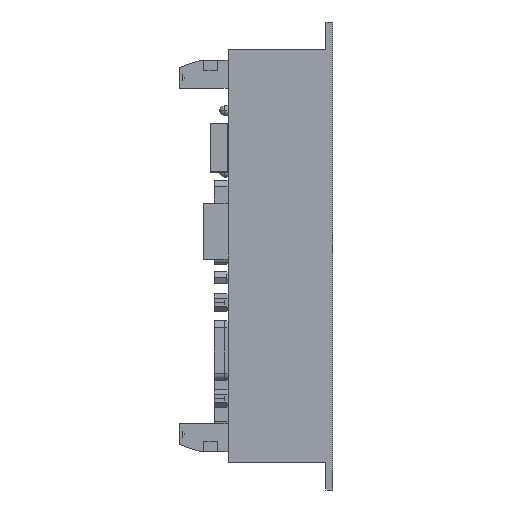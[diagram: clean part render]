
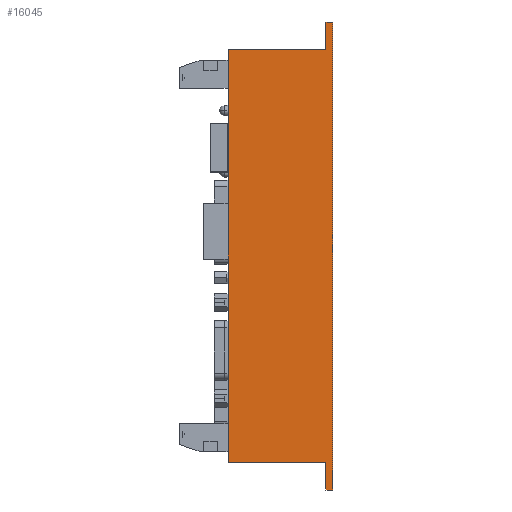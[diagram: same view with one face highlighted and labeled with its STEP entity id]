
A CAD part, left-side view. The second image highlights one B-rep face of the part: STEP entity #16045.
In plain terms, the highlighted planar face has unit normal (-1, 0, 0).
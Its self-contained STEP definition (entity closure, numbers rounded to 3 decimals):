
#2543 = DIRECTION ( 'NONE',  ( 0., -1., 0. ) ) ;
#3916 = LINE ( 'NONE', #60047, #44375 ) ;
#4196 = EDGE_CURVE ( 'NONE', #54018, #56251, #3916, .T. ) ;
#6555 = LINE ( 'NONE', #9157, #20064 ) ;
#8133 = CARTESIAN_POINT ( 'NONE',  ( 0., 30., 67.703 ) ) ;
#8533 = DIRECTION ( 'NONE',  ( 0., 0., -1. ) ) ;
#9157 = CARTESIAN_POINT ( 'NONE',  ( 0., 2., 67.703 ) ) ;
#10380 = VECTOR ( 'NONE', #42547, 1000. ) ;
#11235 = CARTESIAN_POINT ( 'NONE',  ( 0., 2., -58.297 ) ) ;
#11546 = ORIENTED_EDGE ( 'NONE', *, *, #67235, .F. ) ;
#12239 = EDGE_CURVE ( 'NONE', #22685, #40519, #74609, .T. ) ;
#12701 = EDGE_LOOP ( 'NONE', ( #67057, #37570, #50156, #49112, #66664, #11546, #26501, #35660 ) ) ;
#12953 = VECTOR ( 'NONE', #45590, 1000. ) ;
#13385 = VECTOR ( 'NONE', #19671, 1000. ) ;
#14923 = DIRECTION ( 'NONE',  ( 0., 0., 1. ) ) ;
#16045 = ADVANCED_FACE ( 'NONE', ( #50665 ), #25570, .F. ) ;
#17330 = VECTOR ( 'NONE', #33636, 1000. ) ;
#17669 = CARTESIAN_POINT ( 'NONE',  ( 0., 2., -50.297 ) ) ;
#17686 = VERTEX_POINT ( 'NONE', #66553 ) ;
#19671 = DIRECTION ( 'NONE',  ( 0., 0., 1. ) ) ;
#19770 = VERTEX_POINT ( 'NONE', #11235 ) ;
#20064 = VECTOR ( 'NONE', #14923, 1000. ) ;
#21308 = VERTEX_POINT ( 'NONE', #72109 ) ;
#22685 = VERTEX_POINT ( 'NONE', #62416 ) ;
#25570 = PLANE ( 'NONE',  #67678 ) ;
#26217 = CARTESIAN_POINT ( 'NONE',  ( 0., 0., -58.297 ) ) ;
#26501 = ORIENTED_EDGE ( 'NONE', *, *, #74613, .F. ) ;
#30214 = CARTESIAN_POINT ( 'NONE',  ( 0., 0., -58.297 ) ) ;
#32650 = LINE ( 'NONE', #56507, #17330 ) ;
#32927 = LINE ( 'NONE', #8133, #10380 ) ;
#33636 = DIRECTION ( 'NONE',  ( 0., 0., 1. ) ) ;
#33861 = VECTOR ( 'NONE', #2543, 1000. ) ;
#35660 = ORIENTED_EDGE ( 'NONE', *, *, #4196, .F. ) ;
#37110 = DIRECTION ( 'NONE',  ( 0., 0., -1. ) ) ;
#37570 = ORIENTED_EDGE ( 'NONE', *, *, #56961, .F. ) ;
#40519 = VERTEX_POINT ( 'NONE', #61051 ) ;
#40624 = CARTESIAN_POINT ( 'NONE',  ( 0., 0., 75.703 ) ) ;
#42547 = DIRECTION ( 'NONE',  ( 0., -1., 0. ) ) ;
#43555 = LINE ( 'NONE', #17669, #12953 ) ;
#44375 = VECTOR ( 'NONE', #8533, 1000. ) ;
#45590 = DIRECTION ( 'NONE',  ( 0., 1., 0. ) ) ;
#49112 = ORIENTED_EDGE ( 'NONE', *, *, #12239, .F. ) ;
#49152 = LINE ( 'NONE', #65672, #33861 ) ;
#49371 = CARTESIAN_POINT ( 'NONE',  ( 0., 2., -50.297 ) ) ;
#49385 = EDGE_CURVE ( 'NONE', #65285, #22685, #43555, .T. ) ;
#50156 = ORIENTED_EDGE ( 'NONE', *, *, #65205, .F. ) ;
#50665 = FACE_OUTER_BOUND ( 'NONE', #12701, .T. ) ;
#52700 = VECTOR ( 'NONE', #66432, 1000. ) ;
#54018 = VERTEX_POINT ( 'NONE', #40624 ) ;
#56251 = VERTEX_POINT ( 'NONE', #30214 ) ;
#56507 = CARTESIAN_POINT ( 'NONE',  ( 0., 2., -58.297 ) ) ;
#56961 = EDGE_CURVE ( 'NONE', #21308, #17686, #6555, .T. ) ;
#60047 = CARTESIAN_POINT ( 'NONE',  ( 0., 0., 75.703 ) ) ;
#61051 = CARTESIAN_POINT ( 'NONE',  ( 0., 30., 67.703 ) ) ;
#62416 = CARTESIAN_POINT ( 'NONE',  ( 0., 30., -50.297 ) ) ;
#64828 = EDGE_CURVE ( 'NONE', #17686, #54018, #49152, .T. ) ;
#65205 = EDGE_CURVE ( 'NONE', #40519, #21308, #32927, .T. ) ;
#65285 = VERTEX_POINT ( 'NONE', #49371 ) ;
#65670 = CARTESIAN_POINT ( 'NONE',  ( 0., 30., -50.297 ) ) ;
#65672 = CARTESIAN_POINT ( 'NONE',  ( 0., 2., 75.703 ) ) ;
#65769 = CARTESIAN_POINT ( 'NONE',  ( 0., 0., 0. ) ) ;
#66180 = LINE ( 'NONE', #26217, #52700 ) ;
#66432 = DIRECTION ( 'NONE',  ( 0., 1., 0. ) ) ;
#66553 = CARTESIAN_POINT ( 'NONE',  ( 0., 2., 75.703 ) ) ;
#66664 = ORIENTED_EDGE ( 'NONE', *, *, #49385, .F. ) ;
#67057 = ORIENTED_EDGE ( 'NONE', *, *, #64828, .F. ) ;
#67235 = EDGE_CURVE ( 'NONE', #19770, #65285, #32650, .T. ) ;
#67678 = AXIS2_PLACEMENT_3D ( 'NONE', #65769, #71610, #37110 ) ;
#71610 = DIRECTION ( 'NONE',  ( 1., 0., 0. ) ) ;
#72109 = CARTESIAN_POINT ( 'NONE',  ( 0., 2., 67.703 ) ) ;
#74609 = LINE ( 'NONE', #65670, #13385 ) ;
#74613 = EDGE_CURVE ( 'NONE', #56251, #19770, #66180, .T. ) ;
